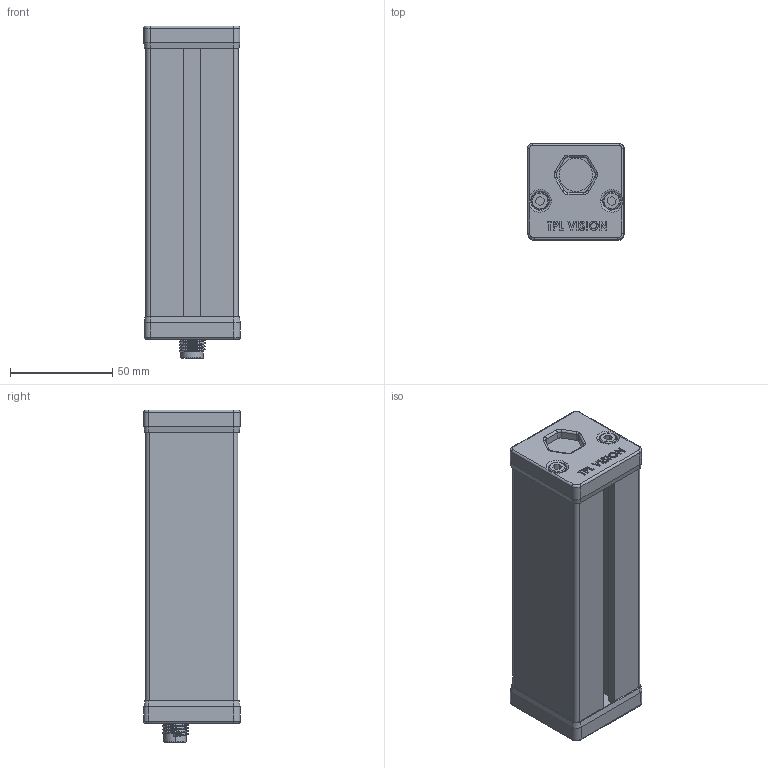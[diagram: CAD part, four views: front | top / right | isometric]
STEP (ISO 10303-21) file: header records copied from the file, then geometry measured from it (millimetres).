
FILE_DESCRIPTION (( 'STEP AP214' ), '1' );
FILE_NAME ('BLBAR 5.STEP', '2012-02-13T13:34:20', ( ' ' ), ( '' ), 'SwSTEP 2.0', 'SolidWorks 2009', '' );
FILE_SCHEMA (( 'AUTOMOTIVE_DESIGN' ));
Length unit declared in the file: millimetre
Products named in the file (1): BLBAR 5
Bounding box: 47.2 x 47 x 162.1 mm (x, y, z)
Volume: 94406.7 mm3; surface area: 88643.2 mm2
Topology: 1 solids, 3 shells, 599 faces, 1564 edges, 1007 vertices
Faces by surface type: plane 311, cylinder 156, bspline 66, torus 38, cone 20, sphere 8
Entity records: 34060 total; most frequent: CARTESIAN_POINT 13050, ORIENTED_EDGE 3096, DIRECTION 2810, EDGE_CURVE 1548, VERTEX_POINT 999, LINE 950, VECTOR 950, AXIS2_PLACEMENT_3D 930
